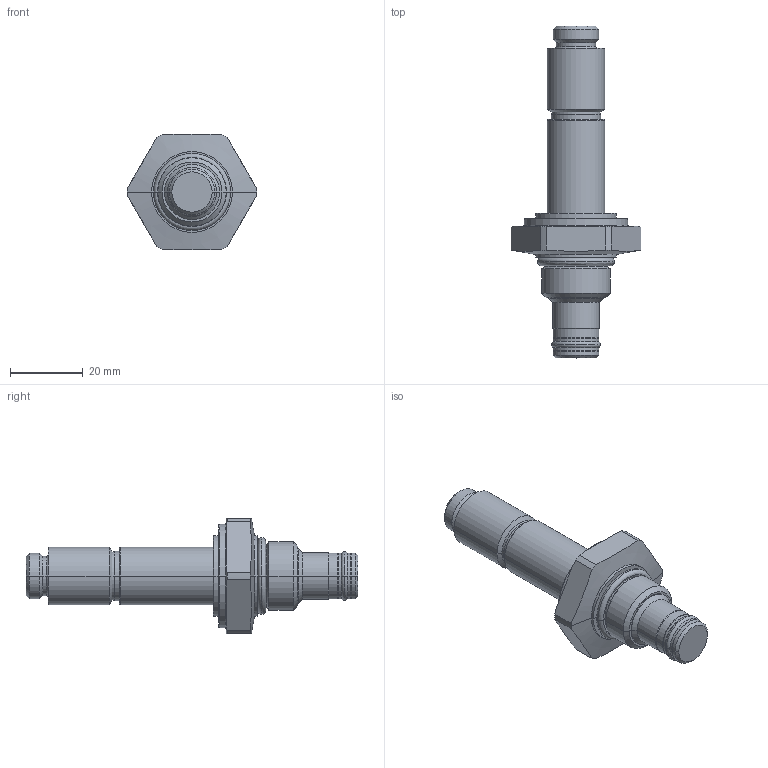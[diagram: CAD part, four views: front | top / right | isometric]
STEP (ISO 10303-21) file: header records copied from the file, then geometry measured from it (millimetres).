
FILE_DESCRIPTION((''),'2;1');
FILE_NAME('5008100_SW0001','2009-03-04T',('jcs'),(''),'PRO/ENGINEER BY PARAMETRIC TECHNOLOGY CORPORATION, 2008010','PRO/ENGINEER BY PARAMETRIC TECHNOLOGY CORPORATION, 2008010','');
FILE_SCHEMA(('CONFIG_CONTROL_DESIGN'));
Length unit declared in the file: inch
Products named in the file (1): 5008100_SW0001
Bounding box: 35.69 x 91.33 x 31.75 mm (x, y, z)
Volume: 23503.4 mm3; surface area: 7725 mm2
Topology: 3 solids, 3 shells, 140 faces, 296 edges, 168 vertices
Faces by surface type: cylinder 46, cone 42, torus 18, plane 18, revolution 16
Entity records: 4150 total; most frequent: CARTESIAN_POINT 1054, DIRECTION 694, ORIENTED_EDGE 592, EDGE_CURVE 296, AXIS2_PLACEMENT_3D 292, VERTEX_POINT 168, CIRCLE 168, EDGE_LOOP 150
